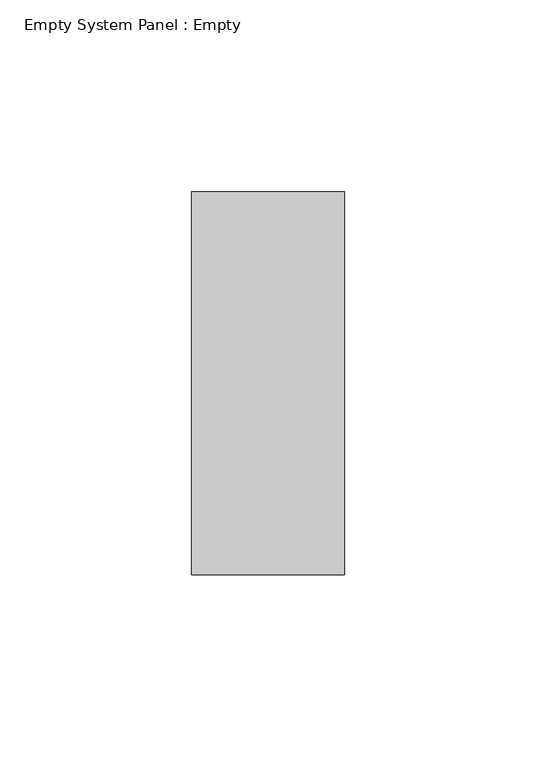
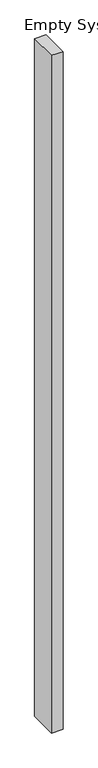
"""IFC4 building model written with IfcOpenShell, lengths in millimetres: plate geometry, Empty System Panel : Empty."""

from ifc_helpers import new_model, si_unit, origin, origin_with_axes, place, context, project, spatial, polyline, outline, extrude, source, transform, mapped, element, save


def empty_system_panel_empty_c465eea2(model_context):
    return source(origin(), model_context, "Body", "SweptSolid", [
        extrude(outline(polyline([(19.9999998, 50.0), (-19.9999998, 50.0), (-19.9999998, 150.0), (19.9999998, 150.0), (19.9999998, 50.0)])), origin_with_axes(), (0.0, 0.0, 1.0), 2475.0),
    ])


if __name__ == "__main__":
    model = new_model("IFC4")
    model_context = context("Model", 3, world=origin())
    ifc_project = project(units=[si_unit("LENGTHUNIT", "METRE", prefix="MILLI")], contexts=[model_context])
    site = spatial("IfcSite", under=ifc_project)
    building = spatial("IfcBuilding", under=site)
    placement = place(None, origin())
    empty_system_panel_empty_shape = empty_system_panel_empty_c465eea2(model_context)
    element("IfcPlate", 1, ObjectType="Empty System Panel : Empty", at=placement, inside=building, context=model_context, shape_type="MappedRepresentation", body=[
        mapped(empty_system_panel_empty_shape, transform((0.0, 0.0, 0.0), x_axis=(1.0, 0.0, 0.0), y_axis=(0.0, 1.0, 0.0), z_axis=(0.0, 0.0, 1.0))),
    ])
    save(model, "model.ifc")
